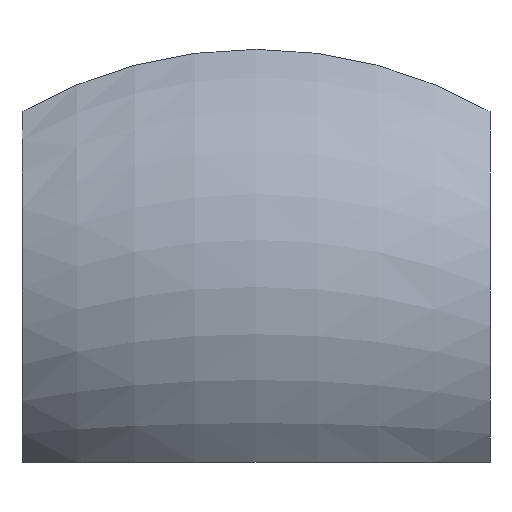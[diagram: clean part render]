
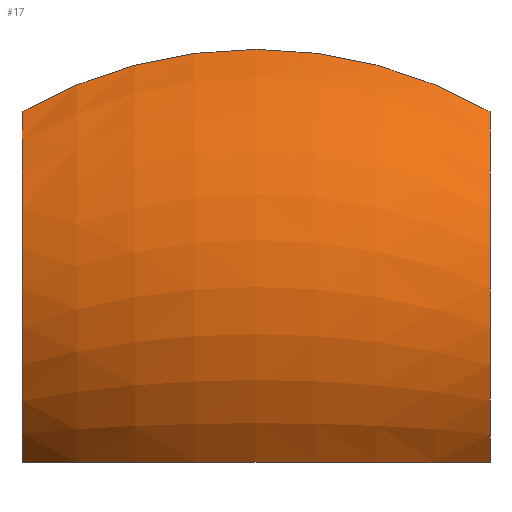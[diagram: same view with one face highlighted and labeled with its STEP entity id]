
A CAD part, top view. The second image highlights one B-rep face of the part: STEP entity #17.
In plain terms, the highlighted face is a revolution surface.
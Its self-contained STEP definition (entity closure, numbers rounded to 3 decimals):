
#17 = ADVANCED_FACE('',(#18),#33,.F.);
#18 = FACE_BOUND('',#19,.F.);
#19 = EDGE_LOOP('',(#20,#48,#65,#82));
#20 = ORIENTED_EDGE('',*,*,#21,.T.);
#21 = EDGE_CURVE('',#22,#24,#26,.T.);
#22 = VERTEX_POINT('',#23);
#23 = CARTESIAN_POINT('',(2000.,1500.,0.));
#24 = VERTEX_POINT('',#25);
#25 = CARTESIAN_POINT('',(2000.,0.,
    0.));
#26 = SURFACE_CURVE('',#27,(#32),.PCURVE_S1.);
#27 = CIRCLE('',#28,1000.);
#28 = AXIS2_PLACEMENT_3D('',#29,#30,#31);
#29 = CARTESIAN_POINT('',(2000.,750.,-661.438));
#30 = DIRECTION('',(1.,0.,0.));
#31 = DIRECTION('',(0.,1.,0.));
#32 = PCURVE('',#33,#42);
#33 = SURFACE_OF_REVOLUTION('',#34,#39);
#34 = CIRCLE('',#35,2000.);
#35 = AXIS2_PLACEMENT_3D('',#36,#37,#38);
#36 = CARTESIAN_POINT('',(1000.,604.356,637.6));
#37 = DIRECTION('',(0.,0.75,0.661));
#38 = DIRECTION('',(1.,0.,0.));
#39 = AXIS1_PLACEMENT('',#40,#41);
#40 = CARTESIAN_POINT('',(1000.,750.,-661.438));
#41 = DIRECTION('',(1.,0.,0.));
#42 = DEFINITIONAL_REPRESENTATION('',(#43),#47);
#43 = LINE('',#44,#45);
#44 = CARTESIAN_POINT('',(0.,1.047));
#45 = VECTOR('',#46,1.);
#46 = DIRECTION('',(1.,0.));
#47 = ( GEOMETRIC_REPRESENTATION_CONTEXT(2) 
PARAMETRIC_REPRESENTATION_CONTEXT() REPRESENTATION_CONTEXT('2D SPACE',''
  ) );
#48 = ORIENTED_EDGE('',*,*,#49,.T.);
#49 = EDGE_CURVE('',#24,#50,#52,.T.);
#50 = VERTEX_POINT('',#51);
#51 = CARTESIAN_POINT('',(0.,0.,
    0.));
#52 = SURFACE_CURVE('',#53,(#58),.PCURVE_S1.);
#53 = CIRCLE('',#54,2000.);
#54 = AXIS2_PLACEMENT_3D('',#55,#56,#57);
#55 = CARTESIAN_POINT('',(1000.,0.,
    -1732.051));
#56 = DIRECTION('',(0.,-1.,0.));
#57 = DIRECTION('',(1.,0.,0.));
#58 = PCURVE('',#33,#59);
#59 = DEFINITIONAL_REPRESENTATION('',(#60),#64);
#60 = LINE('',#61,#62);
#61 = CARTESIAN_POINT('',(2.419,0.));
#62 = VECTOR('',#63,1.);
#63 = DIRECTION('',(0.,1.));
#64 = ( GEOMETRIC_REPRESENTATION_CONTEXT(2) 
PARAMETRIC_REPRESENTATION_CONTEXT() REPRESENTATION_CONTEXT('2D SPACE',''
  ) );
#65 = ORIENTED_EDGE('',*,*,#66,.F.);
#66 = EDGE_CURVE('',#67,#50,#69,.T.);
#67 = VERTEX_POINT('',#68);
#68 = CARTESIAN_POINT('',(0.,1500.,
    0.));
#69 = SURFACE_CURVE('',#70,(#75),.PCURVE_S1.);
#70 = CIRCLE('',#71,1000.);
#71 = AXIS2_PLACEMENT_3D('',#72,#73,#74);
#72 = CARTESIAN_POINT('',(0.,750.,-661.438));
#73 = DIRECTION('',(1.,0.,0.));
#74 = DIRECTION('',(0.,1.,0.));
#75 = PCURVE('',#33,#76);
#76 = DEFINITIONAL_REPRESENTATION('',(#77),#81);
#77 = LINE('',#78,#79);
#78 = CARTESIAN_POINT('',(0.,2.094));
#79 = VECTOR('',#80,1.);
#80 = DIRECTION('',(1.,0.));
#81 = ( GEOMETRIC_REPRESENTATION_CONTEXT(2) 
PARAMETRIC_REPRESENTATION_CONTEXT() REPRESENTATION_CONTEXT('2D SPACE',''
  ) );
#82 = ORIENTED_EDGE('',*,*,#83,.F.);
#83 = EDGE_CURVE('',#22,#67,#84,.T.);
#84 = SURFACE_CURVE('',#85,(#90),.PCURVE_S1.);
#85 = CIRCLE('',#86,2000.);
#86 = AXIS2_PLACEMENT_3D('',#87,#88,#89);
#87 = CARTESIAN_POINT('',(1000.,-218.466,216.506));
#88 = DIRECTION('',(0.,0.125,0.992));
#89 = DIRECTION('',(1.,0.,0.));
#90 = PCURVE('',#33,#91);
#91 = DEFINITIONAL_REPRESENTATION('',(#92),#96);
#92 = LINE('',#93,#94);
#93 = CARTESIAN_POINT('',(0.723,0.));
#94 = VECTOR('',#95,1.);
#95 = DIRECTION('',(0.,1.));
#96 = ( GEOMETRIC_REPRESENTATION_CONTEXT(2) 
PARAMETRIC_REPRESENTATION_CONTEXT() REPRESENTATION_CONTEXT('2D SPACE',''
  ) );
